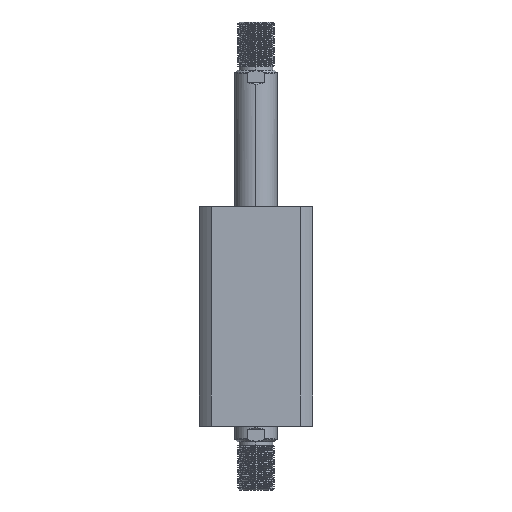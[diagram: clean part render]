
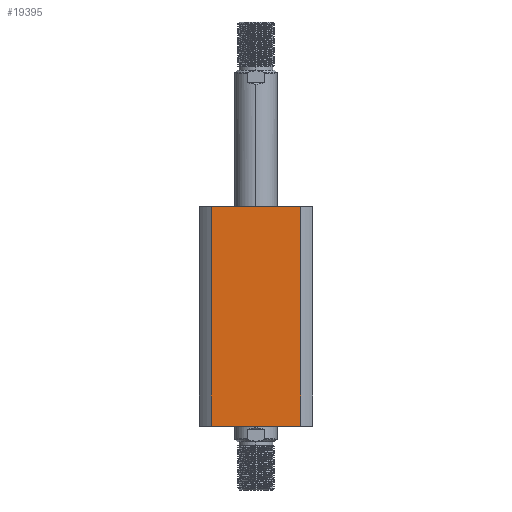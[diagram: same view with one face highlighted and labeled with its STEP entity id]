
A CAD part, left-side view. The second image highlights one B-rep face of the part: STEP entity #19395.
In plain terms, the highlighted planar face has unit normal (-1, 0, 0).
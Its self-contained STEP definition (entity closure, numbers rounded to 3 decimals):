
#589 = FACE_OUTER_BOUND ( 'NONE', #20502, .T. ) ;
#692 = DIRECTION ( 'NONE',  ( 0., 0., 1. ) ) ;
#997 = DIRECTION ( 'NONE',  ( 0., -1., 0. ) ) ;
#1151 = CARTESIAN_POINT ( 'NONE',  ( -47., -37.296, 0. ) ) ;
#4824 = VERTEX_POINT ( 'NONE', #1151 ) ;
#5055 = LINE ( 'NONE', #22201, #22086 ) ;
#5452 = EDGE_CURVE ( 'NONE', #22465, #10348, #14513, .T. ) ;
#7070 = VECTOR ( 'NONE', #13538, 1000. ) ;
#8999 = EDGE_CURVE ( 'NONE', #22465, #4824, #18426, .T. ) ;
#9906 = ORIENTED_EDGE ( 'NONE', *, *, #25595, .F. ) ;
#10348 = VERTEX_POINT ( 'NONE', #20834 ) ;
#11478 = CARTESIAN_POINT ( 'NONE',  ( -47., 37.296, 300. ) ) ;
#11714 = CARTESIAN_POINT ( 'NONE',  ( -47., -37.296, 182. ) ) ;
#13186 = VECTOR ( 'NONE', #692, 1000. ) ;
#13389 = CARTESIAN_POINT ( 'NONE',  ( -47., 47., 182. ) ) ;
#13538 = DIRECTION ( 'NONE',  ( 0., -1., 0. ) ) ;
#13576 = DIRECTION ( 'NONE',  ( 0., 1., 0. ) ) ;
#14513 = LINE ( 'NONE', #11478, #13186 ) ;
#14687 = CARTESIAN_POINT ( 'NONE',  ( -47., 37.296, 0. ) ) ;
#15443 = LINE ( 'NONE', #26689, #26074 ) ;
#15597 = VERTEX_POINT ( 'NONE', #11714 ) ;
#16684 = EDGE_CURVE ( 'NONE', #15597, #4824, #15443, .T. ) ;
#18426 = LINE ( 'NONE', #26246, #7070 ) ;
#19395 = ADVANCED_FACE ( 'NONE', ( #589 ), #24178, .F. ) ;
#20000 = AXIS2_PLACEMENT_3D ( 'NONE', #13389, #26281, #13576 ) ;
#20502 = EDGE_LOOP ( 'NONE', ( #26184, #9906, #21214, #27518 ) ) ;
#20834 = CARTESIAN_POINT ( 'NONE',  ( -47., 37.296, 182. ) ) ;
#21214 = ORIENTED_EDGE ( 'NONE', *, *, #5452, .F. ) ;
#22086 = VECTOR ( 'NONE', #997, 1000. ) ;
#22201 = CARTESIAN_POINT ( 'NONE',  ( -47., 47., 182. ) ) ;
#22465 = VERTEX_POINT ( 'NONE', #14687 ) ;
#24178 = PLANE ( 'NONE',  #20000 ) ;
#24586 = DIRECTION ( 'NONE',  ( 0., 0., -1. ) ) ;
#25595 = EDGE_CURVE ( 'NONE', #10348, #15597, #5055, .T. ) ;
#26074 = VECTOR ( 'NONE', #24586, 1000. ) ;
#26184 = ORIENTED_EDGE ( 'NONE', *, *, #16684, .F. ) ;
#26246 = CARTESIAN_POINT ( 'NONE',  ( -47., 47., 0. ) ) ;
#26281 = DIRECTION ( 'NONE',  ( 1., 0., 0. ) ) ;
#26689 = CARTESIAN_POINT ( 'NONE',  ( -47., -37.296, 300. ) ) ;
#27518 = ORIENTED_EDGE ( 'NONE', *, *, #8999, .T. ) ;
